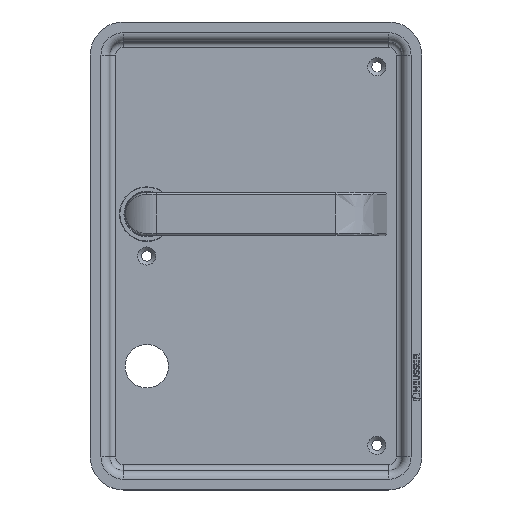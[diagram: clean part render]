
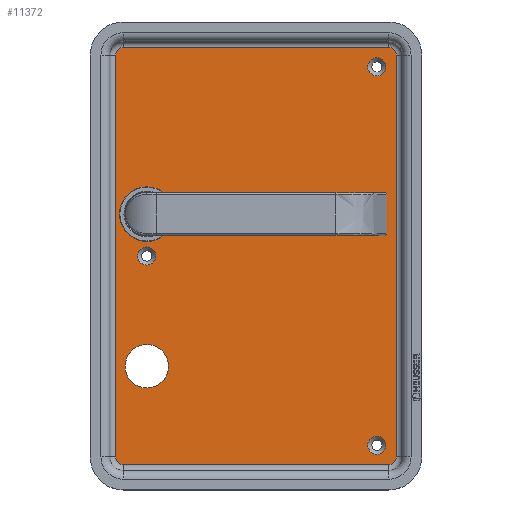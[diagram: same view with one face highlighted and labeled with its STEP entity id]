
A CAD part, top view. The second image highlights one B-rep face of the part: STEP entity #11372.
In plain terms, the highlighted planar face has unit normal (0, 0, 1).
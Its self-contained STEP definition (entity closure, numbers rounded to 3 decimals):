
#732=FACE_BOUND('',#3943,.T.);
#733=FACE_BOUND('',#3944,.T.);
#734=FACE_BOUND('',#3945,.T.);
#735=FACE_BOUND('',#3946,.T.);
#736=FACE_BOUND('',#3947,.T.);
#1641=LINE('',#20474,#2596);
#1642=LINE('',#20478,#2597);
#1643=LINE('',#20482,#2598);
#1644=LINE('',#20486,#2599);
#2596=VECTOR('',#14039,10.);
#2597=VECTOR('',#14042,10.);
#2598=VECTOR('',#14045,10.);
#2599=VECTOR('',#14048,10.);
#3265=FACE_OUTER_BOUND('',#3942,.T.);
#3942=EDGE_LOOP('',(#9568,#9569,#9570,#9571,#9572,#9573,#9574,#9575));
#3943=EDGE_LOOP('',(#9576));
#3944=EDGE_LOOP('',(#9577));
#3945=EDGE_LOOP('',(#9578));
#3946=EDGE_LOOP('',(#9579));
#3947=EDGE_LOOP('',(#9580));
#4141=CIRCLE('',#11845,14.);
#4144=CIRCLE('',#11851,11.15);
#4154=CIRCLE('',#11970,4.65);
#4155=CIRCLE('',#11972,4.);
#4156=CIRCLE('',#11973,4.);
#4157=CIRCLE('',#11974,4.);
#4158=CIRCLE('',#11975,4.);
#4159=CIRCLE('',#11976,4.65);
#4160=CIRCLE('',#11977,4.65);
#4891=VERTEX_POINT('',#18925);
#4894=VERTEX_POINT('',#18934);
#5176=VERTEX_POINT('',#20469);
#5177=VERTEX_POINT('',#20472);
#5178=VERTEX_POINT('',#20473);
#5179=VERTEX_POINT('',#20475);
#5180=VERTEX_POINT('',#20477);
#5181=VERTEX_POINT('',#20479);
#5182=VERTEX_POINT('',#20481);
#5183=VERTEX_POINT('',#20483);
#5184=VERTEX_POINT('',#20485);
#5185=VERTEX_POINT('',#20488);
#5186=VERTEX_POINT('',#20490);
#6246=EDGE_CURVE('',#4891,#4891,#4141,.T.);
#6249=EDGE_CURVE('',#4894,#4894,#4144,.T.);
#6663=EDGE_CURVE('',#5176,#5176,#4154,.T.);
#6664=EDGE_CURVE('',#5177,#5178,#1641,.T.);
#6665=EDGE_CURVE('',#5179,#5177,#4155,.T.);
#6666=EDGE_CURVE('',#5180,#5179,#1642,.T.);
#6667=EDGE_CURVE('',#5181,#5180,#4156,.T.);
#6668=EDGE_CURVE('',#5182,#5181,#1643,.T.);
#6669=EDGE_CURVE('',#5183,#5182,#4157,.T.);
#6670=EDGE_CURVE('',#5184,#5183,#1644,.T.);
#6671=EDGE_CURVE('',#5178,#5184,#4158,.T.);
#6672=EDGE_CURVE('',#5185,#5185,#4159,.T.);
#6673=EDGE_CURVE('',#5186,#5186,#4160,.T.);
#9568=ORIENTED_EDGE('',*,*,#6664,.F.);
#9569=ORIENTED_EDGE('',*,*,#6665,.F.);
#9570=ORIENTED_EDGE('',*,*,#6666,.F.);
#9571=ORIENTED_EDGE('',*,*,#6667,.F.);
#9572=ORIENTED_EDGE('',*,*,#6668,.F.);
#9573=ORIENTED_EDGE('',*,*,#6669,.F.);
#9574=ORIENTED_EDGE('',*,*,#6670,.F.);
#9575=ORIENTED_EDGE('',*,*,#6671,.F.);
#9576=ORIENTED_EDGE('',*,*,#6246,.T.);
#9577=ORIENTED_EDGE('',*,*,#6249,.T.);
#9578=ORIENTED_EDGE('',*,*,#6672,.F.);
#9579=ORIENTED_EDGE('',*,*,#6673,.F.);
#9580=ORIENTED_EDGE('',*,*,#6663,.F.);
#10211=PLANE('',#11971);
#11372=ADVANCED_FACE('',(#3265,#732,#733,#734,#735,#736),#10211,.T.);
#11845=AXIS2_PLACEMENT_3D('',#18926,#13505,#13506);
#11851=AXIS2_PLACEMENT_3D('',#18935,#13517,#13518);
#11970=AXIS2_PLACEMENT_3D('',#20470,#14035,#14036);
#11971=AXIS2_PLACEMENT_3D('',#20471,#14037,#14038);
#11972=AXIS2_PLACEMENT_3D('',#20476,#14040,#14041);
#11973=AXIS2_PLACEMENT_3D('',#20480,#14043,#14044);
#11974=AXIS2_PLACEMENT_3D('',#20484,#14046,#14047);
#11975=AXIS2_PLACEMENT_3D('',#20487,#14049,#14050);
#11976=AXIS2_PLACEMENT_3D('',#20489,#14051,#14052);
#11977=AXIS2_PLACEMENT_3D('',#20491,#14053,#14054);
#13505=DIRECTION('center_axis',(0.,0.,-1.));
#13506=DIRECTION('ref_axis',(1.,0.,0.));
#13517=DIRECTION('center_axis',(0.,0.,-1.));
#13518=DIRECTION('ref_axis',(-1.,0.,0.));
#14035=DIRECTION('center_axis',(0.,0.,1.));
#14036=DIRECTION('ref_axis',(-1.,0.,0.));
#14037=DIRECTION('center_axis',(0.,0.,1.));
#14038=DIRECTION('ref_axis',(1.,0.,0.));
#14039=DIRECTION('',(0.,1.,0.));
#14040=DIRECTION('center_axis',(0.,0.,-1.));
#14041=DIRECTION('ref_axis',(-0.707,-0.707,0.));
#14042=DIRECTION('',(-1.,0.,0.));
#14043=DIRECTION('center_axis',(0.,0.,-1.));
#14044=DIRECTION('ref_axis',(0.707,-0.707,0.));
#14045=DIRECTION('',(0.,-1.,0.));
#14046=DIRECTION('center_axis',(0.,0.,-1.));
#14047=DIRECTION('ref_axis',(0.707,0.707,0.));
#14048=DIRECTION('',(1.,0.,0.));
#14049=DIRECTION('center_axis',(0.,0.,-1.));
#14050=DIRECTION('ref_axis',(-0.707,0.707,0.));
#14051=DIRECTION('center_axis',(0.,0.,1.));
#14052=DIRECTION('ref_axis',(-1.,0.,0.));
#14053=DIRECTION('center_axis',(0.,0.,1.));
#14054=DIRECTION('ref_axis',(-1.,0.,0.));
#18925=CARTESIAN_POINT('',(-96.796,26.549,-9.));
#18926=CARTESIAN_POINT('Origin',(-82.796,26.549,-9.));
#18934=CARTESIAN_POINT('',(-71.646,-51.451,-9.));
#18935=CARTESIAN_POINT('Origin',(-82.796,-51.451,-9.));
#20469=CARTESIAN_POINT('',(39.854,-91.951,-9.));
#20470=CARTESIAN_POINT('Origin',(35.204,-91.951,-9.));
#20471=CARTESIAN_POINT('Origin',(-26.796,5.049,-9.));
#20472=CARTESIAN_POINT('',(-98.796,-97.951,-9.));
#20473=CARTESIAN_POINT('',(-98.796,108.049,-9.));
#20474=CARTESIAN_POINT('',(-98.796,-46.451,-9.));
#20475=CARTESIAN_POINT('',(-94.796,-101.951,-9.));
#20476=CARTESIAN_POINT('Origin',(-94.796,-97.951,-9.));
#20477=CARTESIAN_POINT('',(41.204,-101.951,-9.));
#20478=CARTESIAN_POINT('',(7.204,-101.951,-9.));
#20479=CARTESIAN_POINT('',(45.204,-97.951,-9.));
#20480=CARTESIAN_POINT('Origin',(41.204,-97.951,-9.));
#20481=CARTESIAN_POINT('',(45.204,108.049,-9.));
#20482=CARTESIAN_POINT('',(45.204,56.549,-9.));
#20483=CARTESIAN_POINT('',(41.204,112.049,-9.));
#20484=CARTESIAN_POINT('Origin',(41.204,108.049,-9.));
#20485=CARTESIAN_POINT('',(-94.796,112.049,-9.));
#20486=CARTESIAN_POINT('',(-60.796,112.049,-9.));
#20487=CARTESIAN_POINT('Origin',(-94.796,108.049,-9.));
#20488=CARTESIAN_POINT('',(-78.146,5.049,-9.));
#20489=CARTESIAN_POINT('Origin',(-82.796,5.049,-9.));
#20490=CARTESIAN_POINT('',(39.854,102.049,-9.));
#20491=CARTESIAN_POINT('Origin',(35.204,102.049,-9.));
